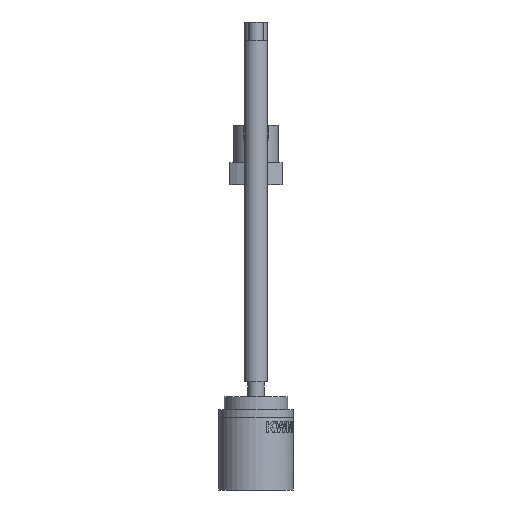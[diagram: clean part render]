
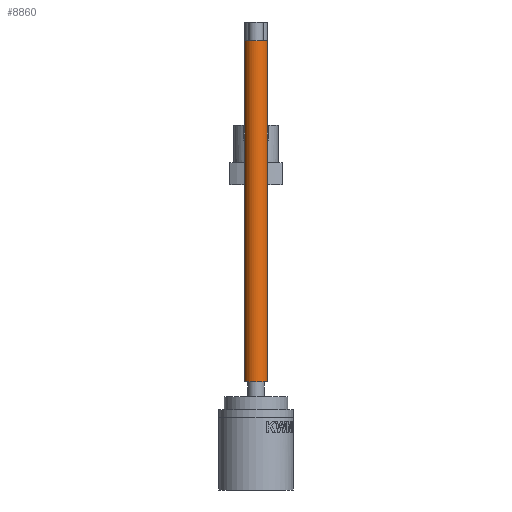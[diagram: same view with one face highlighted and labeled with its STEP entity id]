
A CAD part, left-side view. The second image highlights one B-rep face of the part: STEP entity #8860.
In plain terms, the highlighted cylindrical face has radius 1.5 mm (diameter 3 mm), a full revolution.
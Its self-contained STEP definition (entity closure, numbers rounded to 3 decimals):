
#8860=ADVANCED_FACE('',(#9607,#9608),#9072,.T.);
#9072=CYLINDRICAL_SURFACE('',#20315,1.5);
#9607=FACE_BOUND('',#10867,.T.);
#9608=FACE_BOUND('',#10868,.T.);
#10867=EDGE_LOOP('',(#14974));
#10868=EDGE_LOOP('',(#14975));
#14974=ORIENTED_EDGE('',*,*,#18652,.F.);
#14975=ORIENTED_EDGE('',*,*,#18653,.T.);
#16560=VERTEX_POINT('',#45096);
#16561=VERTEX_POINT('',#45098);
#18652=EDGE_CURVE('',#16560,#16560,#19145,.T.);
#18653=EDGE_CURVE('',#16561,#16561,#19146,.T.);
#19145=CIRCLE('',#20313,1.5);
#19146=CIRCLE('',#20314,1.5);
#20313=AXIS2_PLACEMENT_3D('',#45095,#23053,#23054);
#20314=AXIS2_PLACEMENT_3D('',#45097,#23055,#23056);
#20315=AXIS2_PLACEMENT_3D('',#45099,#23057,#23058);
#23053=DIRECTION('',(0.,0.,-1.));
#23054=DIRECTION('',(-1.,0.,0.));
#23055=DIRECTION('',(0.,0.,-1.));
#23056=DIRECTION('',(-1.,0.,0.));
#23057=DIRECTION('',(0.,0.,-1.));
#23058=DIRECTION('',(-1.,0.,0.));
#45095=CARTESIAN_POINT('',(-62.,0.,14.45));
#45096=CARTESIAN_POINT('',(-63.5,0.,14.45));
#45097=CARTESIAN_POINT('',(-62.,0.,59.95));
#45098=CARTESIAN_POINT('',(-63.5,0.,59.95));
#45099=CARTESIAN_POINT('',(-62.,0.,10.7));
